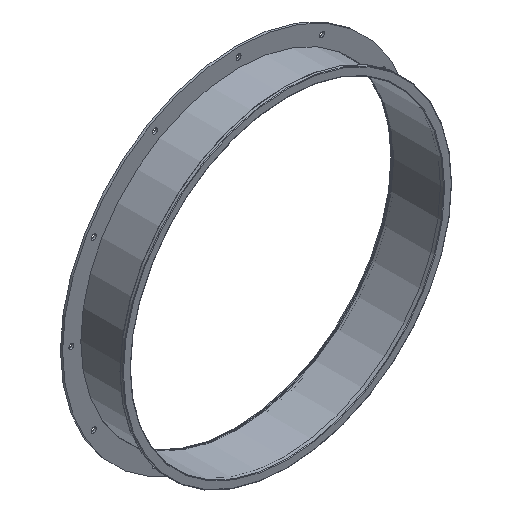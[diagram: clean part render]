
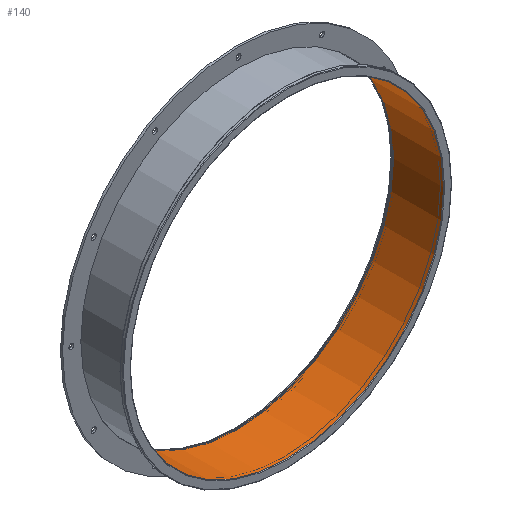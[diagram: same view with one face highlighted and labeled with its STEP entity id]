
A CAD part, isometric view. The second image highlights one B-rep face of the part: STEP entity #140.
In plain terms, the highlighted cylindrical face has radius 300 mm (diameter 600 mm), a full revolution.
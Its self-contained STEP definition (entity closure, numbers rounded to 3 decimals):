
#107=CYLINDRICAL_SURFACE('',#619,300.);
#140=ADVANCED_FACE('',(#181,#182),#107,.F.);
#181=FACE_BOUND('',#277,.T.);
#182=FACE_BOUND('',#278,.T.);
#277=EDGE_LOOP('',(#373));
#278=EDGE_LOOP('',(#374));
#373=ORIENTED_EDGE('',*,*,#516,.T.);
#374=ORIENTED_EDGE('',*,*,#517,.T.);
#468=VERTEX_POINT('',#880);
#469=VERTEX_POINT('',#882);
#516=EDGE_CURVE('',#468,#468,#564,.T.);
#517=EDGE_CURVE('',#469,#469,#565,.T.);
#564=CIRCLE('',#617,300.);
#565=CIRCLE('',#618,300.);
#617=AXIS2_PLACEMENT_3D('',#879,#714,#715);
#618=AXIS2_PLACEMENT_3D('',#881,#716,#717);
#619=AXIS2_PLACEMENT_3D('',#883,#718,#719);
#714=DIRECTION('',(0.,-1.,0.));
#715=DIRECTION('',(-1.,0.,0.));
#716=DIRECTION('',(0.,1.,0.));
#717=DIRECTION('',(1.,0.,0.));
#718=DIRECTION('',(0.,1.,0.));
#719=DIRECTION('',(1.,0.,0.));
#879=CARTESIAN_POINT('',(0.,1.,0.));
#880=CARTESIAN_POINT('',(-300.,1.,0.));
#881=CARTESIAN_POINT('',(0.,99.,0.));
#882=CARTESIAN_POINT('',(300.,99.,0.));
#883=CARTESIAN_POINT('',(0.,-192.076,0.));
